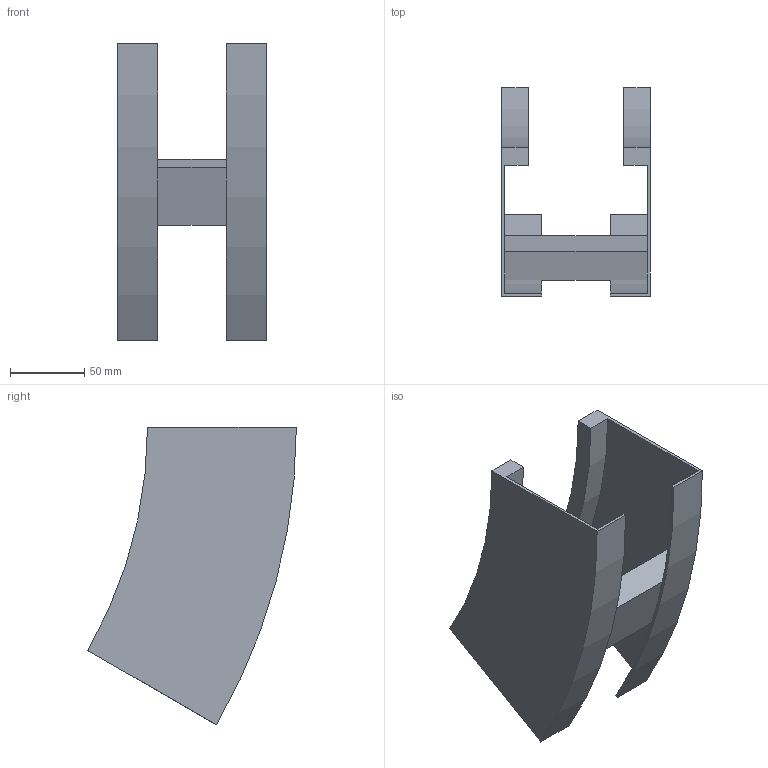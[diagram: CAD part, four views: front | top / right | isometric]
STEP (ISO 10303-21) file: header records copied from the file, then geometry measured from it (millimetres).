
FILE_DESCRIPTION (( 'STEP AP214' ), '1' );
FILE_NAME ('B2X32B3D100XX.step', '2025-03-20T09:57:58', ( '' ), ( '' ), 'SwSTEP 2.0', 'SolidWorks 2023', '' );
FILE_SCHEMA (( 'AUTOMOTIVE_DESIGN' ));
Length unit declared in the file: millimetre
Products named in the file (3): B2X32B3D100XX; B2_LONGH.SALITA_30°_H100_R300; TRAVERSINO_100
Assembly tree (3 placements, depth 2):
  B2X32B3D100XX
    B2_LONGH.SALITA_30°_H100_R300  x2
    TRAVERSINO_100
Bounding box: 100 x 140.19 x 200 mm (x, y, z)
Volume: 233480.4 mm3; surface area: 120919.7 mm2
Topology: 3 solids, 3 shells, 26 faces, 60 edges, 40 vertices
Faces by surface type: plane 18, cylinder 8
Entity records: 544 total; most frequent: DIRECTION 88, CARTESIAN_POINT 82, ORIENTED_EDGE 72, EDGE_CURVE 36, AXIS2_PLACEMENT_3D 30, VECTOR 28, LINE 28, VERTEX_POINT 24
